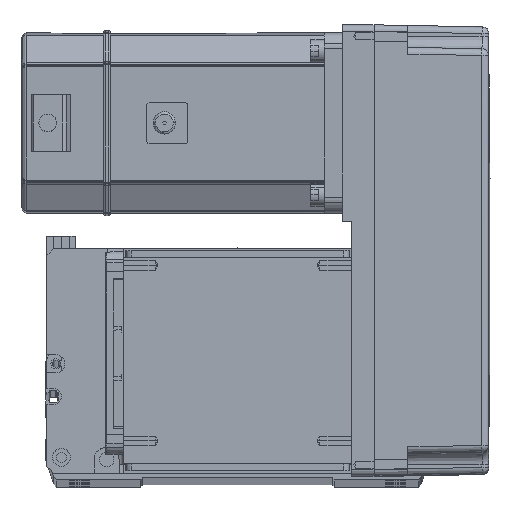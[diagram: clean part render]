
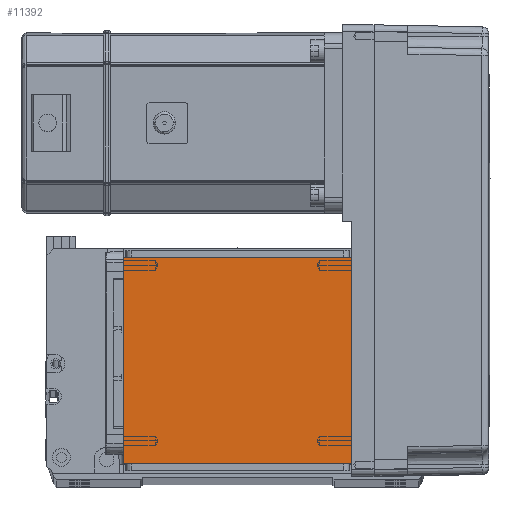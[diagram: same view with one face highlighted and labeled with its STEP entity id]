
A CAD part, top view. The second image highlights one B-rep face of the part: STEP entity #11392.
In plain terms, the highlighted planar face has unit normal (0, 0, 1).
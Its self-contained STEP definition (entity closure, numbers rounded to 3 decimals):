
#2203 = ORIENTED_EDGE ( 'NONE', *, *, #30900, .F. ) ;
#4077 = LINE ( 'NONE', #9434, #57241 ) ;
#5513 = DIRECTION ( 'NONE',  ( -1., 0., 0. ) ) ;
#5820 = AXIS2_PLACEMENT_3D ( 'NONE', #17627, #12700, #26793 ) ;
#9434 = CARTESIAN_POINT ( 'NONE',  ( -70.004, 111.5, 115. ) ) ;
#9903 = VECTOR ( 'NONE', #16243, 1000. ) ;
#10222 = CARTESIAN_POINT ( 'NONE',  ( 50.5, 111.5, 115. ) ) ;
#10301 = VERTEX_POINT ( 'NONE', #20270 ) ;
#11392 = ADVANCED_FACE ( 'NONE', ( #16023 ), #46132, .T. ) ;
#12700 = DIRECTION ( 'NONE',  ( 0., 0., 1. ) ) ;
#13439 = EDGE_LOOP ( 'NONE', ( #2203, #26930, #25997, #40638 ) ) ;
#16023 = FACE_OUTER_BOUND ( 'NONE', #13439, .T. ) ;
#16243 = DIRECTION ( 'NONE',  ( 0., 1., 0. ) ) ;
#16445 = CARTESIAN_POINT ( 'NONE',  ( 50.5, 122., 115. ) ) ;
#17627 = CARTESIAN_POINT ( 'NONE',  ( 0., 0., 115. ) ) ;
#18737 = LINE ( 'NONE', #57924, #19453 ) ;
#19453 = VECTOR ( 'NONE', #5513, 1000. ) ;
#20270 = CARTESIAN_POINT ( 'NONE',  ( 50.5, 20., 115. ) ) ;
#25997 = ORIENTED_EDGE ( 'NONE', *, *, #47456, .F. ) ;
#26269 = VECTOR ( 'NONE', #51958, 1000. ) ;
#26793 = DIRECTION ( 'NONE',  ( 1., 0., 0. ) ) ;
#26930 = ORIENTED_EDGE ( 'NONE', *, *, #30896, .T. ) ;
#28270 = CARTESIAN_POINT ( 'NONE',  ( -50.5, 122., 115. ) ) ;
#30896 = EDGE_CURVE ( 'NONE', #45329, #37500, #43245, .T. ) ;
#30900 = EDGE_CURVE ( 'NONE', #45329, #46407, #4077, .T. ) ;
#32515 = EDGE_CURVE ( 'NONE', #10301, #46407, #41681, .T. ) ;
#37500 = VERTEX_POINT ( 'NONE', #40528 ) ;
#40528 = CARTESIAN_POINT ( 'NONE',  ( -50.5, 20., 115. ) ) ;
#40638 = ORIENTED_EDGE ( 'NONE', *, *, #32515, .T. ) ;
#41681 = LINE ( 'NONE', #16445, #9903 ) ;
#43245 = LINE ( 'NONE', #28270, #26269 ) ;
#45283 = CARTESIAN_POINT ( 'NONE',  ( -50.5, 111.5, 115. ) ) ;
#45329 = VERTEX_POINT ( 'NONE', #45283 ) ;
#46132 = PLANE ( 'NONE',  #5820 ) ;
#46407 = VERTEX_POINT ( 'NONE', #10222 ) ;
#47456 = EDGE_CURVE ( 'NONE', #10301, #37500, #18737, .T. ) ;
#51333 = DIRECTION ( 'NONE',  ( 1., 0., 0. ) ) ;
#51958 = DIRECTION ( 'NONE',  ( 0., -1., 0. ) ) ;
#57241 = VECTOR ( 'NONE', #51333, 1000. ) ;
#57924 = CARTESIAN_POINT ( 'NONE',  ( -70.004, 20., 115. ) ) ;
